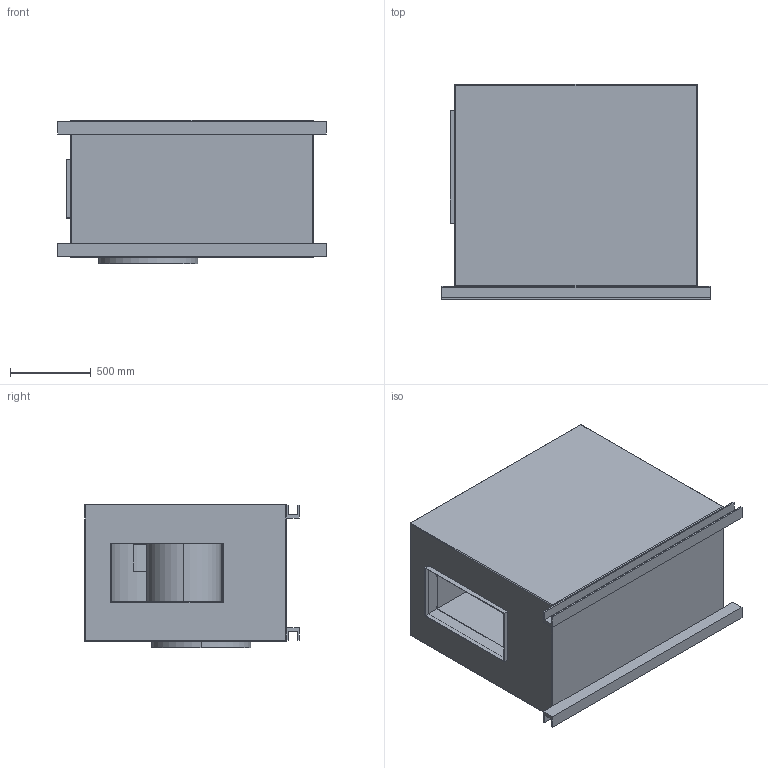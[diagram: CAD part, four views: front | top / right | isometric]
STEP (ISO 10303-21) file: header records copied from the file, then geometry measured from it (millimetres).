
FILE_DESCRIPTION(('STEP AP214'),'1');
FILE_NAME('fan_sptr000123_h.stp','2017-03-31T12:38:24',('TraceParts'),('TraceParts S.A.'),'Spatial InterOp 3D',' ',' ');
FILE_SCHEMA(('automotive_design'));
Length unit declared in the file: millimetre
Products named in the file (1): fan_sptr000123_h
Bounding box: 1660 x 1330 x 890 mm (x, y, z)
Volume: 600853718.8 mm3; surface area: 22248517.4 mm2
Topology: 1 solids, 1 shells, 169 faces, 449 edges, 278 vertices
Faces by surface type: plane 106, cylinder 51, sphere 8, torus 4
Entity records: 6559 total; most frequent: DIRECTION 929, CARTESIAN_POINT 889, ORIENTED_EDGE 882, EDGE_CURVE 441, AXIS2_PLACEMENT_3D 318, LINE 293, VECTOR 293, VERTEX_POINT 278
